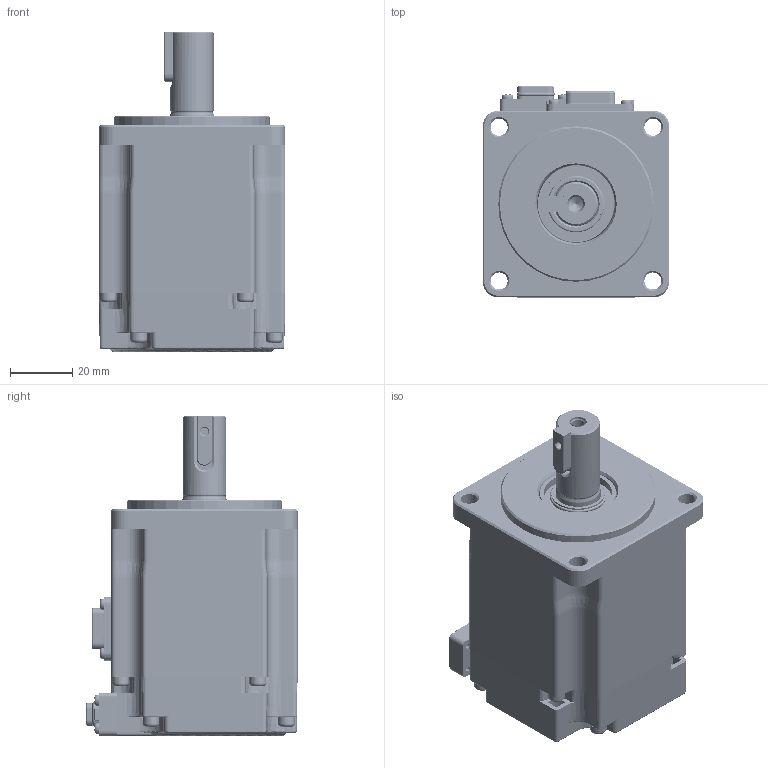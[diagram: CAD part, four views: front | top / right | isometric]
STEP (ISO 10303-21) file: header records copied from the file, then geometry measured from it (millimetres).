
FILE_DESCRIPTION((''),'2;1');
FILE_NAME('11101-01195_ASM','2024-09-05T15:50:44',('admin'),(''),'CREO PARAMETRIC BY PTC INC, 2019080','CREO PARAMETRIC BY PTC INC, 2019080','');
FILE_SCHEMA(('CONFIG_CONTROL_DESIGN'));
Products named in the file (100): 80040364_AF0; 66670033_AF0; 77840024_AF0; 77840025_AF0; 50001-00056_AF0; 20BDZZJ_AF0_ASM; 66670033_AF1; 77840024_AF1; 77840025_AF1; 50001-00056_AF1; 20BDZZJ_AF1_ASM; 66670033_AF2; 77840024_AF2; 77840025_AF2; 50001-00056_AF2; 20BDZZJ_AF2_ASM; 66670033_AF3; 77840024_AF3; 77840025_AF3; 50001-00056_AF3; 20BDZZJ_AF3_ASM; 66670033_AF4; 77840024_AF4; 77840025_AF4; 50001-00056_AF4; 20BDZZJ_AF4_ASM; 66670033_AF5; 77840024_AF5; 77840025_AF5; 50001-00056_AF5; 20BDZZJ_AF5_ASM; 66670033_AF6; 77840024_AF6; 77840025_AF6; 50001-00056_AF6; 20BDZZJ_AF6_ASM; 66670033_AF7; 77840024_AF7; 77840025_AF7; 50001-00056_AF7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
Assembly tree (100 placements, depth 4):
  11101-01195_ASM
    12112-00982_AF0_ASM
      80040364_AF0
      20BDZZJ_AF0_ASM
        66670033_AF0
        77840024_AF0
        77840025_AF0
        50001-00056_AF0
      20BDZZJ_AF1_ASM
        66670033_AF1
        77840024_AF1
        77840025_AF1
        50001-00056_AF1
      20BDZZJ_AF2_ASM
        66670033_AF2
        77840024_AF2
        77840025_AF2
        50001-00056_AF2
      20BDZZJ_AF3_ASM
        66670033_AF3
        77840024_AF3
        77840025_AF3
        50001-00056_AF3
      20BDZZJ_AF4_ASM
        66670033_AF4
        77840024_AF4
        77840025_AF4
        50001-00056_AF4
      20BDZZJ_AF5_ASM
        66670033_AF5
        77840024_AF5
        77840025_AF5
        50001-00056_AF5
      20BDZZJ_AF6_ASM
        66670033_AF6
        77840024_AF6
        77840025_AF6
        50001-00056_AF6
      20BDZZJ_AF7_ASM
        66670033_AF7
        77840024_AF7
        77840025_AF7
        50001-00056_AF7
      20BDZZJ_AF8_ASM
        66670033_AF8
        77840024_AF8
        77840025_AF8
        50001-00056_AF8
      20BDZZJ_AF9_ASM
        66670033_AF9
        77840024_AF9
        77840025_AF9
        50001-00056_AF9
      20BDZZJ_AF10_ASM
        66670033_AF10
        77840024_AF10
        77840025_AF10
        50001-00056_AF10
      20BDZZJ_AF11_ASM
        66670033_AF11
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Bounding box: 60 x 67.95 x 103 mm (x, y, z)
Volume: 72341 mm3; surface area: 61074.9 mm2
Topology: 24 solids, 47 shells, 3134 faces, 8410 edges, 5423 vertices
Faces by surface type: plane 1333, cylinder 1163, bspline 237, cone 183, torus 156, extrusion 49, sphere 13
Entity records: 162039 total; most frequent: CARTESIAN_POINT 85357, ORIENTED_EDGE 16398, DIRECTION 14475, EDGE_CURVE 8245, VERTEX_POINT 5341, AXIS2_PLACEMENT_3D 4918, VECTOR 4639, LINE 4590
